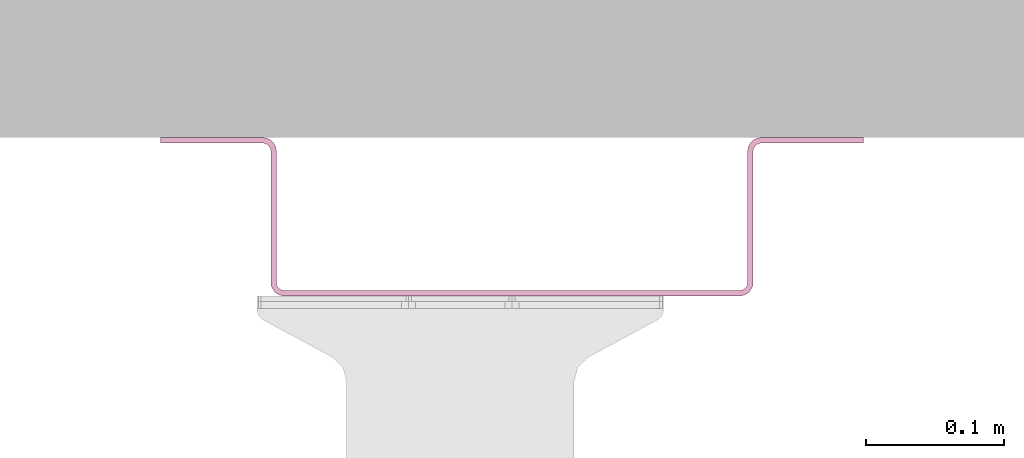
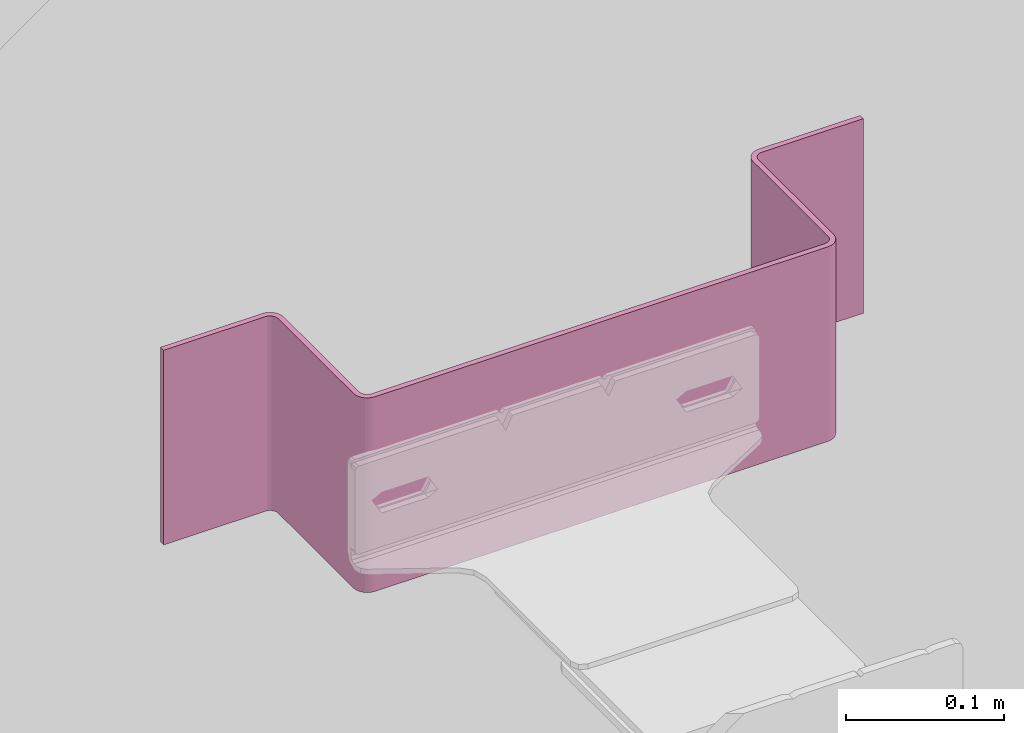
# One storey, part 13 of 15: 1 transport element.
"""IFC2X3 building model written with IfcOpenShell, lengths in millimetres."""

from ifc_helpers import new_model, entity, si_unit, converted_unit, derived_unit, direction, frame, frame_2d, origin, place, context, subcontext, project, spatial, polyline, circle_curve, parameter, trimmed, segment, composite_curve, outline, extrude, source, transform, mapped, material, type_object, type_shapes, element, save


model = new_model("IFC2X3")

# Units and contexts
model_context = context("Model", 3, precision=0.01, world=origin(), true_north=direction((6.12303176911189e-17, 1.0)))
body_context = subcontext(model_context, "Body", "Model", "MODEL_VIEW")
ifc_project = project(units=[si_unit("LENGTHUNIT", "METRE", prefix="MILLI"), si_unit("AREAUNIT", "SQUARE_METRE"), si_unit("VOLUMEUNIT", "CUBIC_METRE"), converted_unit("PLANEANGLEUNIT", "DEGREE", entity("IfcRatioMeasure", 0.0174532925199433), si_unit("PLANEANGLEUNIT", "RADIAN"), dimensions=[0, 0, 0, 0, 0, 0, 0]), si_unit("MASSUNIT", "GRAM", prefix="KILO"), derived_unit("MASSDENSITYUNIT", [(si_unit("MASSUNIT", "GRAM", prefix="KILO"), 1), (si_unit("LENGTHUNIT", "METRE"), -3)]), si_unit("TIMEUNIT", "SECOND"), si_unit("FREQUENCYUNIT", "HERTZ"), si_unit("THERMODYNAMICTEMPERATUREUNIT", "DEGREE_CELSIUS"), derived_unit("THERMALTRANSMITTANCEUNIT", [(si_unit("MASSUNIT", "GRAM", prefix="KILO"), 1), (si_unit("THERMODYNAMICTEMPERATUREUNIT", "KELVIN"), -1), (si_unit("TIMEUNIT", "SECOND"), -3)]), derived_unit("VOLUMETRICFLOWRATEUNIT", [(si_unit("LENGTHUNIT", "METRE"), 3), (si_unit("TIMEUNIT", "SECOND"), -1)]), si_unit("ELECTRICCURRENTUNIT", "AMPERE"), si_unit("ELECTRICVOLTAGEUNIT", "VOLT"), si_unit("POWERUNIT", "WATT"), si_unit("FORCEUNIT", "NEWTON", prefix="KILO"), si_unit("ILLUMINANCEUNIT", "LUX"), si_unit("LUMINOUSFLUXUNIT", "LUMEN"), si_unit("LUMINOUSINTENSITYUNIT", "CANDELA"), derived_unit("USERDEFINED", [(si_unit("MASSUNIT", "GRAM", prefix="KILO"), -1), (si_unit("LENGTHUNIT", "METRE"), -2), (si_unit("TIMEUNIT", "SECOND"), 3), (si_unit("LUMINOUSFLUXUNIT", "LUMEN"), 1)]), derived_unit("LINEARVELOCITYUNIT", [(si_unit("LENGTHUNIT", "METRE"), 1), (si_unit("TIMEUNIT", "SECOND"), -1)]), si_unit("PRESSUREUNIT", "PASCAL"), derived_unit("USERDEFINED", [(si_unit("LENGTHUNIT", "METRE"), -2), (si_unit("MASSUNIT", "GRAM", prefix="KILO"), 1), (si_unit("TIMEUNIT", "SECOND"), -2)])], contexts=[model_context])

# Site, building, storey, space
site_placement = place(None, frame((-151.875543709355, 2715.0, 0.0)))
site = spatial("IfcSite", under=ifc_project, at=site_placement, Name="Surface", CompositionType="ELEMENT")
building_placement = place(site_placement, origin())
building = spatial("IfcBuilding", under=site, at=building_placement, CompositionType="ELEMENT")
storey_placement = place(building_placement, frame((0.0, 0.0, 7670.0)))
storey = spatial("IfcBuildingStorey", under=building, at=storey_placement, Name="uus 3 korrus", CompositionType="ELEMENT", Elevation=7670.00000000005)
space_placement = place(storey_placement, origin())
space = spatial("IfcSpace", under=storey, at=space_placement, Name="327a", CompositionType="ELEMENT", InteriorOrExteriorSpace="INTERNAL")

# Transport element
ifc_material = material(Name="Generic")
transport_element_type = type_object("IfcTransportElementType", Name="KONE_Car_Bracket_Extension_KM755828G01_L115", material=ifc_material)
shared_shape = source(origin(), body_context, "Body", "SweptSolid", [
    extrude(outline(composite_curve([segment(polyline([(-42.4000000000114, 181.0), (-42.4000000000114, 255.0)]), True, "CONTINUOUS"), segment(polyline([(-42.4000000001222, 255.0), (-46.4000000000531, 255.0)]), True, "CONTINUOUS"), segment(polyline([(-46.3999999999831, 255.0), (-46.3999999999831, 181.0)]), True, "CONTINUOUS"), segment(trimmed(circle_curve(frame_2d((-36.3999999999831, 181.0), x_axis=(-1.0, 0.0)), 10.0), [parameter(0.0)], [parameter(90.0000000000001)], True, "PARAMETER"), True, "CONTINUOUS"), segment(polyline([(-36.3999999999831, 171.0), (58.5999999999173, 171.0)]), True, "CONTINUOUS"), segment(trimmed(circle_curve(frame_2d((58.5999999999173, 165.0), x_axis=(-1.0, 0.0)), 6.0), [parameter(180.0)], [parameter(269.999999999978)], True, "PARAMETER"), False, "CONTINUOUS"), segment(polyline([(64.5999999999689, 165.0), (64.599999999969, -165.0)]), True, "CONTINUOUS"), segment(trimmed(circle_curve(frame_2d((58.5999999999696, -165.0), x_axis=(0.0, 1.0)), 6.0), [parameter(180.0)], [parameter(270.000000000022)], True, "PARAMETER"), False, "CONTINUOUS"), segment(polyline([(58.5999999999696, -171.0), (-36.3999999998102, -171.0)]), True, "CONTINUOUS"), segment(trimmed(circle_curve(frame_2d((-36.3999999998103, -181.0), x_axis=(0.0, 1.0)), 10.0), [parameter(0.0)], [parameter(90.0000000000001)], True, "PARAMETER"), True, "CONTINUOUS"), segment(polyline([(-46.3999999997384, -181.0), (-46.3999999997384, -255.0)]), True, "CONTINUOUS"), segment(polyline([(-46.3999999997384, -255.0), (-42.3999999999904, -255.0)]), True, "CONTINUOUS"), segment(polyline([(-42.4000000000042, -255.0), (-42.4000000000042, -181.0)]), True, "CONTINUOUS"), segment(trimmed(circle_curve(frame_2d((-36.4000000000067, -181.0), x_axis=(0.0, -1.0)), 6.0), [parameter(180.0)], [parameter(270.0)], True, "PARAMETER"), False, "CONTINUOUS"), segment(polyline([(-36.4000000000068, -175.0), (58.5999999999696, -175.0)]), True, "CONTINUOUS"), segment(trimmed(circle_curve(frame_2d((58.5999999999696, -165.0), x_axis=(0.0, -1.0)), 10.0), [parameter(0.0)], [parameter(90.0000000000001)], True, "PARAMETER"), True, "CONTINUOUS"), segment(polyline([(68.5999999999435, -165.0), (68.5999999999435, 165.0)]), True, "CONTINUOUS"), segment(trimmed(circle_curve(frame_2d((58.5999999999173, 165.0), x_axis=(1.0, 0.0)), 10.0), [parameter(0.0)], [parameter(90.0000000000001)], True, "PARAMETER"), True, "CONTINUOUS"), segment(polyline([(58.5999999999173, 175.0), (-36.4000000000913, 175.0)]), True, "CONTINUOUS"), segment(trimmed(circle_curve(frame_2d((-36.4000000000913, 181.0), x_axis=(1.0, 0.0)), 6.0), [parameter(180.0)], [parameter(270.0)], True, "PARAMETER"), False, "CONTINUOUS")], self_intersect=False)), frame((148.391689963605, -34.4186219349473, -46.4000000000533), z_axis=(0.0, -1.0, 0.0), x_axis=(0.0, 0.0, -1.0)), (0.0, 0.0, -1.0), 150.0),
])
type_shapes(transport_element_type, [shared_shape])
transport_element_placement = place(space_placement, frame((30608.2260771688, 21740.0, 1774.58171854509), z_axis=(0.0, 1.0, 0.0), x_axis=(1.0, 0.0, 0.0)))
element("IfcTransportElement", 1, at=transport_element_placement, inside=space, type_object=transport_element_type, material=ifc_material, Name="KONE_Car_Bracket_Extension_KM755828G01_L115:KONE_Car_Bracket_Extension_KM755828G01_L115", ObjectType="KONE_Car_Bracket_Extension_KM755828G01_L115", CapacityByNumber=0.0, CapacityByWeight=0.0, OperationType="ELEVATOR", context=body_context, shape_type="MappedRepresentation", body=[
    mapped(shared_shape, transform((0.0, 0.0, 0.0), scale=1.0)),
])

save(model, "model.ifc")
